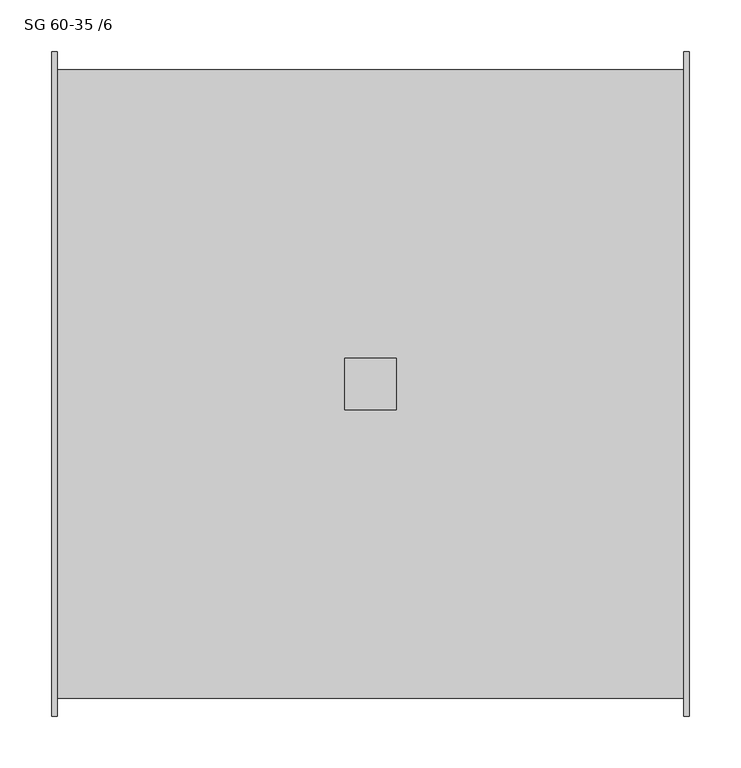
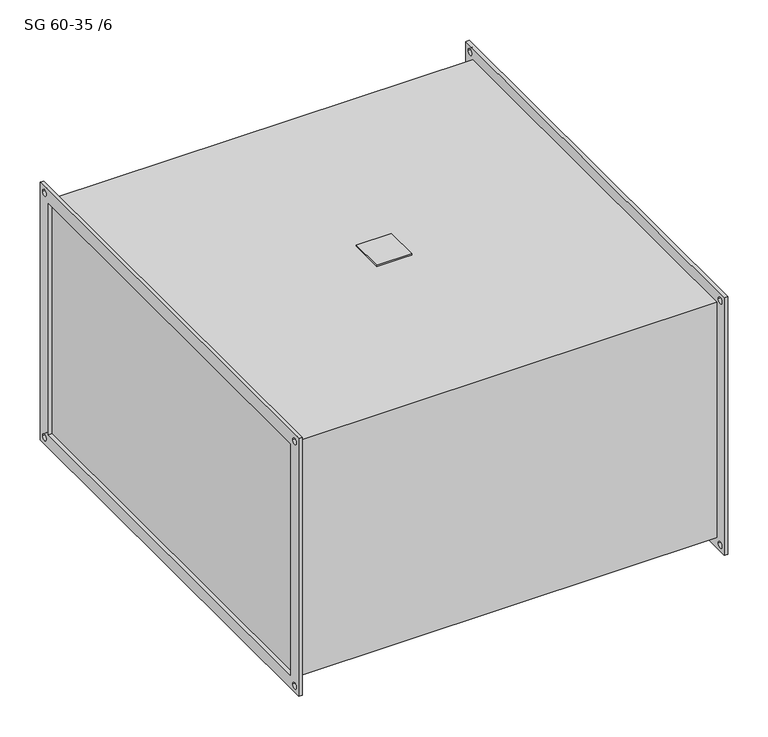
"""IFC4 building model written with IfcOpenShell, lengths in millimetres: damper geometry, KORF_Шумоглушитель_SG : SG 60-35 /6."""

from ifc_helpers import new_model, si_unit, point, frame, frame_2d, origin, place, context, project, spatial, polyline, circle_curve, trimmed, segment, composite_curve, outline, extrude, source, transform, mapped, element, save


def sg_60_35_6_1dfb9e31(model_context):
    return source(origin(), model_context, "Body", "SweptSolid", [
        extrude(outline(polyline([(282.0, -25.0), (282.0, 25.0), (332.0, 25.0), (332.0, -25.0), (282.0, -25.0)])), frame((0.0, 0.0, 178.0), z_axis=(0.0, 0.0, 1.0), x_axis=(1.0, 0.0, 0.0)), (0.0, 0.0, 1.0), 2.0),
        extrude(outline(polyline([(-320.0, 195.0), (320.0, 195.0), (320.0, -195.0), (-320.0, -195.0), (-320.0, 195.0)]), holes=[polyline([(-300.0, 175.0), (-300.0, -175.0), (300.0, -175.0), (300.0, 175.0), (-300.0, 175.0)]), composite_curve([segment(trimmed(circle_curve(frame_2d((310.0, 185.0)), 4.5), [point((305.5, 185.0))], [point((314.5, 185.0))], True, "CARTESIAN"), True, "CONTINUOUS"), segment(trimmed(circle_curve(frame_2d((310.0, 185.0)), 4.5), [point((314.5, 185.0))], [point((305.5, 185.0))], True, "CARTESIAN"), True, "CONTINUOUS")], self_intersect=False), composite_curve([segment(trimmed(circle_curve(frame_2d((-310.0, 185.0)), 4.5), [point((-314.5, 185.0))], [point((-305.5, 185.0))], True, "CARTESIAN"), True, "CONTINUOUS"), segment(trimmed(circle_curve(frame_2d((-310.0, 185.0)), 4.5), [point((-305.5, 185.0))], [point((-314.5, 185.0))], True, "CARTESIAN"), True, "CONTINUOUS")], self_intersect=False), composite_curve([segment(trimmed(circle_curve(frame_2d((-310.0, -185.0)), 4.5), [point((-314.5, -185.0))], [point((-305.5, -185.0))], True, "CARTESIAN"), True, "CONTINUOUS"), segment(trimmed(circle_curve(frame_2d((-310.0, -185.0)), 4.5), [point((-305.5, -185.0))], [point((-314.5, -185.0))], True, "CARTESIAN"), True, "CONTINUOUS")], self_intersect=False), composite_curve([segment(trimmed(circle_curve(frame_2d((310.0, -185.0)), 4.5), [point((305.5, -185.0))], [point((314.5, -185.0))], True, "CARTESIAN"), True, "CONTINUOUS"), segment(trimmed(circle_curve(frame_2d((310.0, -185.0)), 4.5), [point((314.5, -185.0))], [point((305.5, -185.0))], True, "CARTESIAN"), True, "CONTINUOUS")], self_intersect=False)]), frame((609.0, 0.0, 0.0), z_axis=(1.0, 0.0, 0.0), x_axis=(0.0, 1.0, 0.0)), (0.0, 0.0, 1.0), 5.0),
        extrude(outline(polyline([(-320.0, 195.0), (320.0, 195.0), (320.0, -195.0), (-320.0, -195.0), (-320.0, 195.0)]), holes=[polyline([(-300.0, 175.0), (-300.0, -175.0), (300.0, -175.0), (300.0, 175.0), (-300.0, 175.0)]), composite_curve([segment(trimmed(circle_curve(frame_2d((310.0, 185.0)), 4.5), [point((305.5, 185.0))], [point((314.5, 185.0))], True, "CARTESIAN"), True, "CONTINUOUS"), segment(trimmed(circle_curve(frame_2d((310.0, 185.0)), 4.5), [point((314.5, 185.0))], [point((305.5, 185.0))], True, "CARTESIAN"), True, "CONTINUOUS")], self_intersect=False), composite_curve([segment(trimmed(circle_curve(frame_2d((-310.0, 185.0)), 4.5), [point((-314.5, 185.0))], [point((-305.5, 185.0))], True, "CARTESIAN"), True, "CONTINUOUS"), segment(trimmed(circle_curve(frame_2d((-310.0, 185.0)), 4.5), [point((-305.5, 185.0))], [point((-314.5, 185.0))], True, "CARTESIAN"), True, "CONTINUOUS")], self_intersect=False), composite_curve([segment(trimmed(circle_curve(frame_2d((-310.0, -185.0)), 4.5), [point((-314.5, -185.0))], [point((-305.5, -185.0))], True, "CARTESIAN"), True, "CONTINUOUS"), segment(trimmed(circle_curve(frame_2d((-310.0, -185.0)), 4.5), [point((-305.5, -185.0))], [point((-314.5, -185.0))], True, "CARTESIAN"), True, "CONTINUOUS")], self_intersect=False), composite_curve([segment(trimmed(circle_curve(frame_2d((310.0, -185.0)), 4.5), [point((305.5, -185.0))], [point((314.5, -185.0))], True, "CARTESIAN"), True, "CONTINUOUS"), segment(trimmed(circle_curve(frame_2d((310.0, -185.0)), 4.5), [point((314.5, -185.0))], [point((305.5, -185.0))], True, "CARTESIAN"), True, "CONTINUOUS")], self_intersect=False)]), frame((0.0, 0.0, 0.0), z_axis=(1.0, 0.0, 0.0), x_axis=(0.0, 1.0, 0.0)), (0.0, 0.0, 1.0), 5.0),
        extrude(outline(polyline([(609.0, 303.0), (609.0, -303.0), (5.0, -303.0), (5.0, 303.0), (609.0, 303.0)])), frame((0.0, 0.0, -178.0), z_axis=(0.0, 0.0, 1.0), x_axis=(1.0, 0.0, 0.0)), (0.0, 0.0, 1.0), 356.0),
    ])


if __name__ == "__main__":
    model = new_model("IFC4")
    model_context = context("Model", 3, world=origin())
    ifc_project = project(units=[si_unit("LENGTHUNIT", "METRE", prefix="MILLI")], contexts=[model_context])
    site = spatial("IfcSite", under=ifc_project)
    building = spatial("IfcBuilding", under=site)
    placement = place(None, origin())
    sg_60_35_6_shape = sg_60_35_6_1dfb9e31(model_context)
    element("IfcDamper", 1, ObjectType="KORF_Шумоглушитель_SG : SG 60-35 /6", at=placement, inside=building, context=model_context, shape_type="MappedRepresentation", body=[
        mapped(sg_60_35_6_shape, transform((0.0, 0.0, 0.0), x_axis=(1.0, 0.0, 0.0), y_axis=(0.0, 1.0, 0.0), z_axis=(0.0, 0.0, 1.0))),
    ])
    save(model, "model.ifc")
